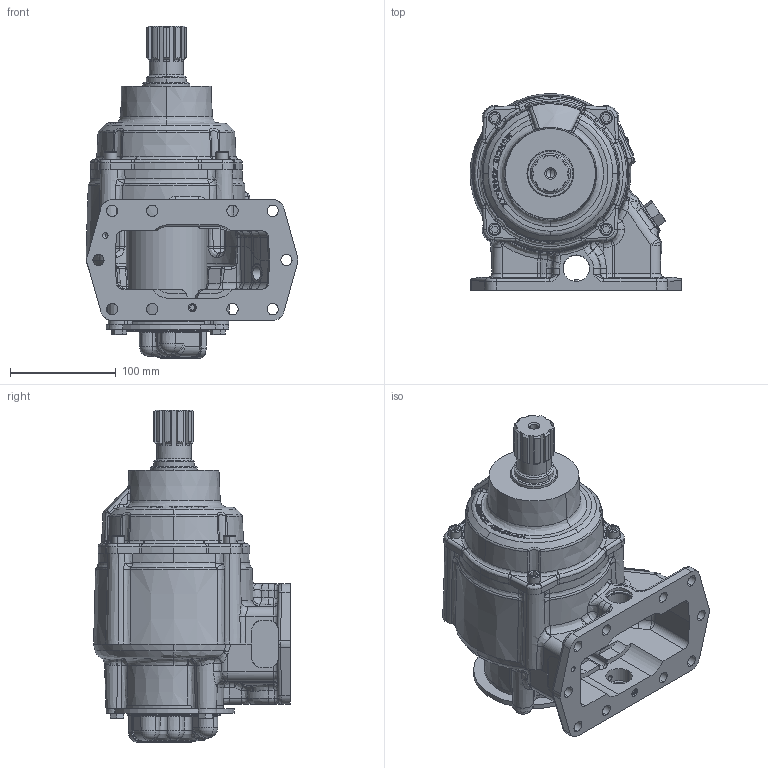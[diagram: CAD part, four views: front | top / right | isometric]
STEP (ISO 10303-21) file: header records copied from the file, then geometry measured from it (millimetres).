
FILE_DESCRIPTION (( 'STEP AP214' ), '1' );
FILE_NAME ('MD1-XXXXX-XX3X1XX.STEP', '2019-09-23T14:54:00', ( '' ), ( '' ), 'SwSTEP 2.0', 'SolidWorks 2019', '' );
FILE_SCHEMA (( 'AUTOMOTIVE_DESIGN' ));
Length unit declared in the file: inch
Products named in the file (2): MD1-XXXXX-XX3X1XX
Bounding box: 200.59 x 186.36 x 314.32 mm (x, y, z)
Surface area: 417705.1 mm2 (no closed solid volume)
Topology: 0 solids, 23 shells, 2424 faces, 6081 edges, 3748 vertices
Faces by surface type: plane 856, bspline 822, cylinder 450, cone 263, torus 33
Entity records: 160483 total; most frequent: CARTESIAN_POINT 77136, ORIENTED_EDGE 12028, DIRECTION 8738, EDGE_CURVE 6023, VERTEX_POINT 3748, AXIS2_PLACEMENT_3D 3083, EDGE_LOOP 2598, LINE 2572
